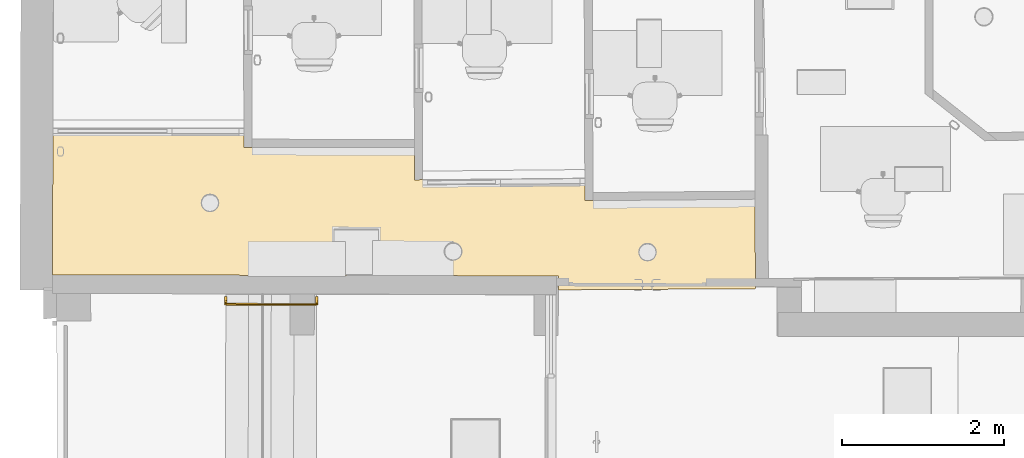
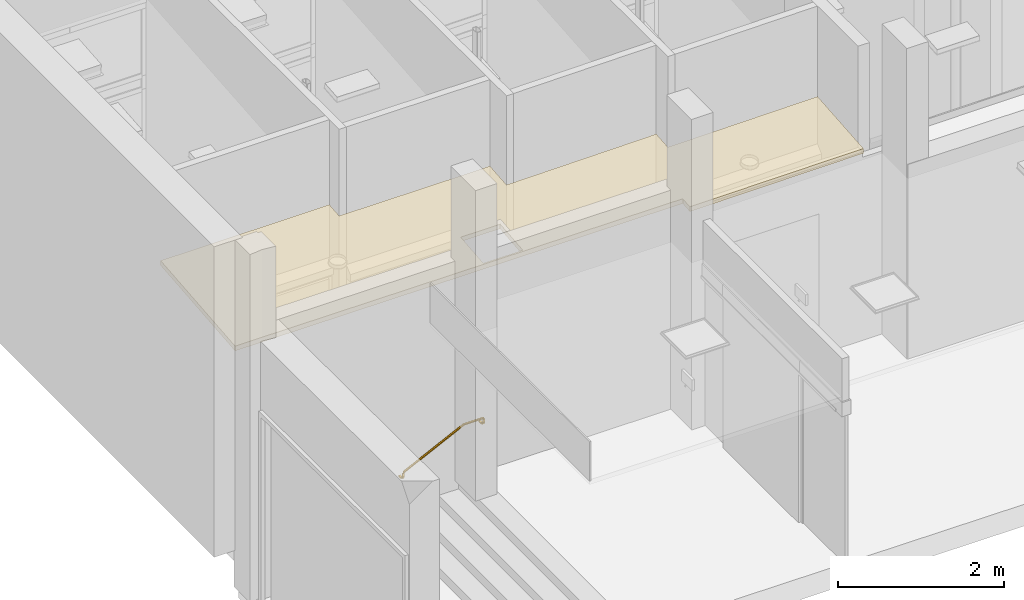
# One storey, part 57 of 128: 1 covering, 1 railing, 1 element without a shape of its own.
"""IFC2X3 building model written with IfcOpenShell, lengths in metres."""

from ifc_helpers import new_model, entity, si_unit, converted_unit, derived_unit, direction, frame, origin, place, context, subcontext, project, spatial, faceted_brep, material, layer, layer_set, layer_usage, type_object, element, aggregate, save


model = new_model("IFC2X3")

# Units and contexts
model_context = context("Model", 3, precision=1e-05, world=origin(), true_north=direction((6.123031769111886e-17, 1.0)))
body_context = subcontext(model_context, "Body", "Model", "MODEL_VIEW")
ifc_project = project(units=[si_unit("LENGTHUNIT", "METRE"), si_unit("AREAUNIT", "SQUARE_METRE"), converted_unit("PLANEANGLEUNIT", "DEGREE", entity("IfcPlaneAngleMeasure", 0.017453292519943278), si_unit("PLANEANGLEUNIT", "RADIAN"), dimensions=[0, 0, 0, 0, 0, 0, 0]), derived_unit("THERMALTRANSMITTANCEUNIT", [(si_unit("MASSUNIT", "GRAM", prefix="KILO"), 1), (si_unit("THERMODYNAMICTEMPERATUREUNIT", "KELVIN"), -1), (si_unit("TIMEUNIT", "SECOND"), -3)])], contexts=[model_context])

# Site, building, storey
site_placement = place(None, origin())
site = spatial("IfcSite", under=ifc_project, at=site_placement, Name="Default", CompositionType="ELEMENT")
building_placement = place(site_placement, origin())
building = spatial("IfcBuilding", under=site, at=building_placement, CompositionType="ELEMENT")
storey_placement = place(building_placement, origin())
storey = spatial("IfcBuildingStorey", under=building, at=storey_placement, Name="00_RDC CAF", CompositionType="ELEMENT", Elevation=2.4982504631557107e-13)

# Covering
ifc_material_1 = material(Name="ARC - FP - Blanc")
ifc_layer_1 = layer(ifc_material_1, 0.02)
ifc_material_2 = material(Name="ARC - FP - Trame 600 x 600")
ifc_layer_2 = layer(ifc_material_2, 0.05)
ifc_layer_set = layer_set([ifc_layer_1, ifc_layer_2], Name="Plafond composé:FP_Dalle-600X600_70mm")
ifc_layer_usage = layer_usage(ifc_layer_set, "AXIS3", "NEGATIVE", 0.07)
covering_type = type_object("IfcCoveringType", Name="Plafond composé:FP_Dalle-600X600_70mm", PredefinedType="CEILING")
covering_placement = place(storey_placement, frame((6.661251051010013, 130.067958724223, 2.773527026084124)))
element("IfcCovering", 1, at=covering_placement, inside=storey, type_object=covering_type, material=ifc_layer_usage, Name="Plafond composé:FP_Dalle-600X600_70mm", ObjectType="Plafond composé:FP_Dalle-600X600_70mm", PredefinedType="CEILING", context=body_context, shape_type="Brep", body=[
    faceted_brep([(6.236379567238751, 0.0, 0.07028292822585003), (8.665495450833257, 0.014004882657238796, 0.0715433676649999), (6.236379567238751, 0.17139027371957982, 0.08570805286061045), (6.565205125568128, 1.0989574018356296, 0.16918909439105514), (8.662607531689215, 1.1177075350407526, 0.1708766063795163), (4.462567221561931, 1.3572491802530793, 0.19243535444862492), (6.562935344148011, 1.377783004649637, 0.19428339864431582), (4.019981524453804, 0.197542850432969, 0.08806178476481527), (4.0220736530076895, 0.7453248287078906, 0.13736216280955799), (3.47207763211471, 0.7474085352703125, 0.1375496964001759), (4.4614822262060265, 1.7542659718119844, 0.22816686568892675), (2.3599775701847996, 1.758211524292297, 0.22852196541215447), (3.469985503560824, 0.19962655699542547, 0.08824931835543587), (0.0, 0.1857097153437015, 0.08699680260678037), (0.005243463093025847, 1.9946884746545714, 0.24980489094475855), (2.3593313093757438, 1.9946884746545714, 0.2498048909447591), (4.462567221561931, 1.3572491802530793, 0.12215242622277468), (6.562935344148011, 1.377783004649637, 0.1240004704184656), (4.995982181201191, 0.5694035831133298, 0.051246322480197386), (4.969452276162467, 0.5803483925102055, 0.05223135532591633), (4.94098218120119, 0.5840814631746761, 0.0525673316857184), (4.912512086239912, 0.5803483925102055, 0.05223135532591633), (4.88598218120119, 0.5694035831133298, 0.051246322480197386), (4.86320043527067, 0.5519929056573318, 0.0496793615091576), (4.022073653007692, 0.7515994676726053, 0.06764395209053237), (3.4720776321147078, 0.7536831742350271, 0.06783148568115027), (4.4614822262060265, 1.7542659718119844, 0.1578839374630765), (5.018763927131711, 0.5519929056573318, 0.0496793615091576), (6.565205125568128, 1.0989574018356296, 0.09890616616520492), (5.036244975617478, 0.5293028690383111, 0.04763725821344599), (6.236379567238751, 0.17139027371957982, 0.015425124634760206), (7.225982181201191, 0.4655242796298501, 0.04189718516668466), (7.229730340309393, 0.4938797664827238, 0.04444917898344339), (7.240719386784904, 0.5203028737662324, 0.04682725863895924), (7.2582004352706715, 0.542992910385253, 0.04886936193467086), (7.280982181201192, 0.560403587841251, 0.050436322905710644), (7.307512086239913, 0.5713483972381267, 0.05142135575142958), (7.335982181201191, 0.5750814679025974, 0.0517573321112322), (7.364452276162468, 0.5713483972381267, 0.05142135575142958), (8.662607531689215, 1.1177075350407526, 0.10059367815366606), (7.390982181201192, 0.560403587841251, 0.050436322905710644), (7.413763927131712, 0.542992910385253, 0.04886936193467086), (7.43124497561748, 0.5203028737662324, 0.04682725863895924), (7.44223402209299, 0.4938797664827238, 0.04444917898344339), (7.445982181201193, 0.4655242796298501, 0.04189718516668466), (8.665495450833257, 0.014004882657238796, 0.0012604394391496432), (7.44223402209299, 0.4371687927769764, 0.039345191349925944), (7.43124497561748, 0.4107456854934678, 0.03696711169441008), (7.413763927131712, 0.38805564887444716, 0.034925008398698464), (7.390982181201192, 0.37064497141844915, 0.03335804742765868), (7.364452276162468, 0.35970016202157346, 0.03237301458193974), (7.335982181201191, 0.3559670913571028, 0.032037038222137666), (6.236379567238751, 0.0, 0.0), (7.240719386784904, 0.4107456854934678, 0.03696711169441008), (7.307512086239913, 0.3597001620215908, 0.03237301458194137), (7.280982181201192, 0.37064497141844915, 0.03335804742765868), (7.2582004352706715, 0.38805564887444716, 0.034925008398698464), (7.229730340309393, 0.4371687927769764, 0.039345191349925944), (5.047234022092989, 0.5028797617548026, 0.04525917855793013), (5.050982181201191, 0.4745242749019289, 0.04270718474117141), (5.047234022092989, 0.4461687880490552, 0.040155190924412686), (5.036244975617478, 0.4197456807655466, 0.037777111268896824), (5.018763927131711, 0.39705564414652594, 0.035735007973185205), (4.995982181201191, 0.37964496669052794, 0.03416804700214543), (4.969452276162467, 0.36870015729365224, 0.03318301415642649), (4.94098218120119, 0.3649670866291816, 0.03284703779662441), (4.019981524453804, 0.20381748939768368, 0.0183435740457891), (3.469985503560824, 0.20590119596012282, 0.018531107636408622), (0.0, 0.1857097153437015, 0.016713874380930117), (1.9419821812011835, 0.9629952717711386, 0.08666957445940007), (1.9135120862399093, 0.9667283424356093, 0.08700555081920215), (1.8869821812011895, 0.977673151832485, 0.08799058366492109), (1.86420043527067, 0.995083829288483, 0.08955754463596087), (1.846719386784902, 1.0177738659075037, 0.0915996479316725), (1.8357303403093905, 1.044196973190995, 0.09397772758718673), (1.8319821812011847, 1.0725524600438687, 0.09652972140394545), (0.005243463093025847, 1.9946884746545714, 0.1795219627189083), (1.835730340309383, 1.1009079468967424, 0.09908171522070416), (1.8467193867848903, 1.127331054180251, 0.10145979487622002), (1.864200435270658, 1.1500210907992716, 0.10350189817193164), (1.8869821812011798, 1.1674317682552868, 0.10506885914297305), (2.3593313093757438, 1.9946884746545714, 0.17952196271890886), (2.3599775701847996, 1.758211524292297, 0.15823903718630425), (2.0519821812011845, 1.0725524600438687, 0.09652972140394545), (2.048234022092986, 1.1009079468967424, 0.09908171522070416), (2.0372449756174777, 1.127331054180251, 0.10145979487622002), (2.019763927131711, 1.1500210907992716, 0.10350189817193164), (1.9969821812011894, 1.1674317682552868, 0.10506885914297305), (1.913512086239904, 1.1783765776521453, 0.10605389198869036), (1.9419821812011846, 1.1821096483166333, 0.1063898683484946), (1.970452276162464, 1.1783765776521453, 0.10605389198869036), (1.9704522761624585, 0.9667283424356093, 0.08700555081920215), (1.9969821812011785, 0.977673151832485, 0.08799058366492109), (2.019763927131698, 0.995083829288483, 0.08955754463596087), (2.037244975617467, 1.0177738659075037, 0.0915996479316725), (2.0482340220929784, 1.044196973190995, 0.09397772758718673), (4.83098218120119, 0.4745242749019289, 0.04270718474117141), (4.834730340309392, 0.4461687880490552, 0.040155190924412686), (4.845719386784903, 0.4197456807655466, 0.037777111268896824), (4.912512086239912, 0.36870015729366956, 0.03318301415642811), (4.88598218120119, 0.37964496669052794, 0.03416804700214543), (4.86320043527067, 0.39705564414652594, 0.035735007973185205), (4.845719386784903, 0.5293028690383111, 0.04763725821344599), (4.834730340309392, 0.5028797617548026, 0.04525917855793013), (1.996982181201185, 0.9731912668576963, 0.13778930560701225), (1.9704522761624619, 0.9622464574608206, 0.13680427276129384), (1.9419821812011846, 0.9585133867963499, 0.13646829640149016), (1.9135120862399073, 0.9622464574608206, 0.13680427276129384), (1.886982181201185, 0.9731912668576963, 0.13778930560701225), (1.8642004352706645, 0.9906019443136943, 0.13935626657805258), (1.8467193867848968, 1.013291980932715, 0.1413983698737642), (1.8357303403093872, 1.0397150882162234, 0.1437764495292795), (1.8319821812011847, 1.068070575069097, 0.14632844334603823), (1.8357303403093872, 1.096426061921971, 0.14888043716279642), (1.8467193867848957, 1.1228491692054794, 0.15125851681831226), (1.8642004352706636, 1.1455392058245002, 0.15330062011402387), (1.886982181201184, 1.162949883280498, 0.15486758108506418), (1.9135120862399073, 1.1738946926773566, 0.15585261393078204), (1.9419821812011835, 1.1776277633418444, 0.1561885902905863), (1.9704522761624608, 1.173894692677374, 0.1558526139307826), (1.9969821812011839, 1.162949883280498, 0.15486758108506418), (2.0197639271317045, 1.1455392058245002, 0.15330062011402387), (2.0372449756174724, 1.1228491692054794, 0.15125851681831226), (2.048234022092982, 1.096426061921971, 0.14888043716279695), (2.0519821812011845, 1.068070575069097, 0.14632844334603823), (2.048234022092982, 1.0397150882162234, 0.14377644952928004), (2.0372449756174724, 1.013291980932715, 0.1413983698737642), (2.0197639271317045, 0.9906019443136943, 0.13935626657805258), (4.995982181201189, 0.37516308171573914, 0.08396676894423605), (4.969452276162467, 0.3642182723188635, 0.08298173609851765), (4.94098218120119, 0.36048520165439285, 0.08264575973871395), (4.912512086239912, 0.3642182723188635, 0.08298173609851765), (4.88598218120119, 0.37516308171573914, 0.08396676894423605), (4.863200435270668, 0.3925737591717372, 0.08553372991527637), (4.845719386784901, 0.4152637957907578, 0.08757583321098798), (4.834730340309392, 0.4416869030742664, 0.08995391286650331), (4.83098218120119, 0.4700423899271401, 0.09250590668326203), (4.834730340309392, 0.49839787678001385, 0.0950579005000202), (4.845719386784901, 0.5248209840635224, 0.09743598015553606), (4.863200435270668, 0.547511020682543, 0.09947808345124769), (4.88598218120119, 0.5649216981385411, 0.101045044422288), (4.912512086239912, 0.5758665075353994, 0.10203007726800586), (4.940982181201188, 0.5795995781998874, 0.10236605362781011), (4.969452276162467, 0.5758665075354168, 0.1020300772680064), (4.995982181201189, 0.5649216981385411, 0.101045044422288), (5.018763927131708, 0.547511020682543, 0.09947808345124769), (5.036244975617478, 0.5248209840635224, 0.09743598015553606), (5.0472340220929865, 0.49839787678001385, 0.09505790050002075), (5.0509821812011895, 0.4700423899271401, 0.09250590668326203), (5.0472340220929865, 0.4416869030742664, 0.08995391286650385), (5.036244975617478, 0.4152637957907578, 0.08757583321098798), (5.018763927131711, 0.3925737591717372, 0.08553372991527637), (7.39098218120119, 0.36616308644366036, 0.08315676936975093), (7.364452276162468, 0.3552182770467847, 0.08217173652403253), (7.335982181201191, 0.35148520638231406, 0.08183576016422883), (7.307512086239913, 0.3552182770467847, 0.08217173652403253), (7.280982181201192, 0.36616308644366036, 0.08315676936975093), (7.25820043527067, 0.3835737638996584, 0.08472373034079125), (7.240719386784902, 0.406263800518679, 0.08676583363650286), (7.229730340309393, 0.4326869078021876, 0.08914391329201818), (7.225982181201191, 0.4610423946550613, 0.09169590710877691), (7.229730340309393, 0.48939788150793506, 0.09424790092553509), (7.240719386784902, 0.5158209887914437, 0.09662598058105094), (7.25820043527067, 0.5385110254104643, 0.09866808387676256), (7.280982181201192, 0.5559217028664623, 0.10023504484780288), (7.307512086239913, 0.5668665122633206, 0.10122007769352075), (7.33598218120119, 0.5705995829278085, 0.10155605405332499), (7.364452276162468, 0.566866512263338, 0.10122007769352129), (7.39098218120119, 0.5559217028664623, 0.10023504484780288), (7.4137639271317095, 0.5385110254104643, 0.09866808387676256), (7.43124497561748, 0.5158209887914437, 0.09662598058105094), (7.442234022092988, 0.48939788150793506, 0.09424790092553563), (7.445982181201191, 0.4610423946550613, 0.09169590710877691), (7.442234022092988, 0.4326869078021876, 0.08914391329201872), (7.43124497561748, 0.406263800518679, 0.08676583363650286), (7.413763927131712, 0.3835737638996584, 0.08472373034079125)], [[[0, 1, 2]], [[2, 1, 3]], [[4, 3, 1]], [[3, 5, 2]], [[6, 5, 3]], [[2, 5, 7]], [[8, 7, 5]], [[8, 5, 9]], [[9, 5, 10]], [[11, 9, 10]], [[11, 12, 9]], [[13, 12, 11]], [[14, 13, 11]], [[15, 14, 11]], [[2, 12, 13]], [[7, 12, 2]], [[16, 17, 18]], [[19, 16, 18]], [[19, 20, 16]], [[20, 21, 16]], [[21, 22, 16]], [[22, 23, 16]], [[24, 16, 23]], [[25, 16, 24]], [[26, 16, 25]], [[17, 27, 18]], [[17, 28, 27]], [[27, 28, 29]], [[29, 28, 30]], [[31, 30, 28]], [[31, 28, 32]], [[32, 28, 33]], [[28, 34, 33]], [[34, 28, 35]], [[28, 36, 35]], [[36, 28, 37]], [[28, 38, 37]], [[28, 39, 38]], [[40, 38, 39]], [[39, 41, 40]], [[41, 39, 42]], [[39, 43, 42]], [[43, 39, 44]], [[44, 39, 45]], [[46, 44, 45]], [[47, 46, 45]], [[48, 47, 45]], [[45, 49, 48]], [[49, 45, 50]], [[50, 45, 51]], [[52, 51, 45]], [[30, 53, 52]], [[52, 54, 51]], [[55, 54, 52]], [[56, 55, 52]], [[52, 53, 56]], [[31, 57, 30]], [[57, 53, 30]], [[29, 30, 58]], [[59, 58, 30]], [[60, 59, 30]], [[60, 30, 61]], [[61, 30, 62]], [[30, 63, 62]], [[63, 30, 64]], [[30, 65, 64]], [[66, 65, 30]], [[30, 67, 66]], [[30, 68, 67]], [[69, 67, 68]], [[70, 69, 68]], [[71, 70, 68]], [[68, 72, 71]], [[68, 73, 72]], [[68, 74, 73]], [[68, 75, 74]], [[76, 75, 68]], [[76, 77, 75]], [[78, 77, 76]], [[79, 78, 76]], [[76, 80, 79]], [[81, 80, 76]], [[80, 81, 82]], [[25, 83, 82]], [[84, 82, 83]], [[85, 82, 84]], [[26, 25, 82]], [[85, 86, 82]], [[86, 87, 82]], [[82, 88, 80]], [[88, 82, 89]], [[82, 90, 89]], [[90, 82, 87]], [[67, 69, 91]], [[67, 91, 92]], [[92, 93, 67]], [[93, 94, 25]], [[93, 25, 67]], [[95, 25, 94]], [[83, 25, 95]], [[96, 66, 24]], [[96, 97, 66]], [[97, 98, 66]], [[99, 65, 66]], [[100, 99, 66]], [[101, 100, 66]], [[101, 66, 98]], [[23, 102, 24]], [[103, 24, 102]], [[96, 24, 103]], [[14, 76, 68, 13]], [[2, 13, 68, 30]], [[39, 4, 1, 45]], [[3, 4, 39, 28]], [[6, 3, 28, 17]], [[5, 6, 17, 16]], [[10, 5, 16, 26]], [[11, 10, 26, 82]], [[15, 11, 82, 81]], [[14, 15, 81, 76]], [[104, 105, 106, 107, 108, 109, 110, 111, 112, 113, 114, 115, 116, 117, 118, 119, 120, 121, 122, 123, 124, 125, 126, 127]], [[128, 129, 130, 131, 132, 133, 134, 135, 136, 137, 138, 139, 140, 141, 142, 143, 144, 145, 146, 147, 148, 149, 150, 151]], [[152, 153, 154, 155, 156, 157, 158, 159, 160, 161, 162, 163, 164, 165, 166, 167, 168, 169, 170, 171, 172, 173, 174, 175]], [[112, 75, 77, 113]], [[113, 77, 78, 114]], [[116, 115, 79, 80]], [[79, 115, 114, 78]], [[117, 116, 80, 88]], [[117, 88, 89, 118]], [[118, 89, 90, 119]], [[119, 90, 87, 120]], [[86, 121, 120, 87]], [[85, 122, 121, 86]], [[83, 124, 123, 84]], [[85, 84, 123, 122]], [[124, 83, 95, 125]], [[125, 95, 94, 126]], [[104, 127, 93, 92]], [[93, 127, 126, 94]], [[105, 104, 92, 91]], [[105, 91, 69, 106]], [[70, 107, 106, 69]], [[111, 110, 73, 74]], [[109, 72, 73, 110]], [[111, 74, 75, 112]], [[71, 108, 107, 70]], [[71, 72, 109, 108]], [[136, 96, 103, 137]], [[137, 103, 102, 138]], [[140, 139, 23, 22]], [[23, 139, 138, 102]], [[141, 140, 22, 21]], [[141, 21, 20, 142]], [[142, 20, 19, 143]], [[143, 19, 18, 144]], [[27, 145, 144, 18]], [[29, 146, 145, 27]], [[59, 148, 147, 58]], [[29, 58, 147, 146]], [[148, 59, 60, 149]], [[149, 60, 61, 150]], [[128, 151, 62, 63]], [[62, 151, 150, 61]], [[129, 128, 63, 64]], [[129, 64, 65, 130]], [[99, 131, 130, 65]], [[135, 134, 98, 97]], [[133, 101, 98, 134]], [[135, 97, 96, 136]], [[100, 132, 131, 99]], [[100, 101, 133, 132]], [[160, 31, 32, 161]], [[161, 32, 33, 162]], [[164, 163, 34, 35]], [[34, 163, 162, 33]], [[165, 164, 35, 36]], [[165, 36, 37, 166]], [[166, 37, 38, 167]], [[167, 38, 40, 168]], [[41, 169, 168, 40]], [[42, 170, 169, 41]], [[44, 172, 171, 43]], [[42, 43, 171, 170]], [[172, 44, 46, 173]], [[173, 46, 47, 174]], [[152, 175, 48, 49]], [[48, 175, 174, 47]], [[153, 152, 49, 50]], [[153, 50, 51, 154]], [[54, 155, 154, 51]], [[159, 158, 53, 57]], [[157, 56, 53, 158]], [[159, 57, 31, 160]], [[55, 156, 155, 54]], [[55, 56, 157, 156]], [[9, 12, 67, 25]], [[8, 9, 25, 24]], [[8, 24, 66, 7]], [[12, 7, 66, 67]], [[0, 2, 30, 52]], [[1, 0, 52, 45]]]),
])

# Stair, railing
type_product = type_object("IfcTypeProduct", Name="Escalier coulé sur place:E_Coule_en_place_Beton_Paillasse_550mm")
stair_placement = place(storey_placement, origin())
stair = element("IfcStair", 2, at=stair_placement, inside=storey, type_object=type_product, Name="Escalier coulé sur place:Escalier", ObjectType="Escalier coulé sur place:E_Coule_en_place_Beton_Paillasse_550mm", ShapeType="STRAIGHT_RUN_STAIR")
ifc_material_3 = material(Name="<Unnamed>")
railing_type = type_object("IfcRailingType", Name="Garde-corps:GC_Main_courante_au_mur", PredefinedType="NOTDEFINED")
railing_placement = place(stair_placement, frame((8.783556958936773, 129.87174799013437, 0.35790472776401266)))
railing = element("IfcRailing", 3, at=railing_placement, type_object=railing_type, material=ifc_material_3, Name="Garde-corps:GC_Main_courante_au_mur", ObjectType="Garde-corps:GC_Main_courante_au_mur", PredefinedType="NOTDEFINED", context=body_context, shape_type="Brep", body=[
    faceted_brep([(0.015052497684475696, 0.03238923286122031, 0.12123974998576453), (0.015052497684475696, 0.03238923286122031, 0.11706198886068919), (0.015052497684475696, 0.03238923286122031, 0.11288422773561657), (0.01505249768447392, 0.03238923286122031, 0.10870646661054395), (0.015052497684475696, 0.03238923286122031, 0.10452870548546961), (0.015044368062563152, 0.029141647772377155, 0.10243982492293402), (0.015036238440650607, 0.025894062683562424, 0.10035094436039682), (0.015026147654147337, 0.0218630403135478, 0.0977581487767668), (0.015019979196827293, 0.01939889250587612, 0.0961731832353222), (0.01501381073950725, 0.016934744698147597, 0.09775814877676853), (0.015007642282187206, 0.014470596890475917, 0.09934311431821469), (0.014997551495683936, 0.010439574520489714, 0.10193590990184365), (0.014987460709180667, 0.00640855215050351, 0.10452870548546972), (0.01498746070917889, 0.00640855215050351, 0.10870646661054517), (0.014987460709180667, 0.00640855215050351, 0.11288422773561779), (0.014987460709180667, 0.006408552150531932, 0.11706198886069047), (0.014987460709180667, 0.00640855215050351, 0.1212397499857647), (0.014995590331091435, 0.009656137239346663, 0.12332863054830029), (0.015003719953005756, 0.012903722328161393, 0.12541751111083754), (0.015011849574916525, 0.016151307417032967, 0.1275063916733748), (0.015019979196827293, 0.01939889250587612, 0.1295952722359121), (0.015028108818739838, 0.02264647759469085, 0.12750639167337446), (0.015036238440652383, 0.025894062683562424, 0.12541751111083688), (0.015044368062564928, 0.029141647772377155, 0.12332863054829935), (0.8619859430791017, 0.017278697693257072, 0.5120952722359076), (0.8615422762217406, 0.014032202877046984, 0.5139702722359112), (0.8614145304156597, 0.01309743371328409, 0.514510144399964), (0.8610986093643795, 0.010785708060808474, 0.5158452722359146), (0.8606549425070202, 0.0075392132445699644, 0.5177202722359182), (0.8602112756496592, 0.0042927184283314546, 0.5195952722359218), (0.8584691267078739, 0.004297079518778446, 0.5270952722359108), (0.8593402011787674, 0.0042948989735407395, 0.5233452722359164), (1.1349839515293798, 0.0036048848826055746, 0.523345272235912), (1.1349839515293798, 0.0036048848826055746, 0.519595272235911), (1.1349839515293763, 0.0036048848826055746, 0.5270952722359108), (1.1349839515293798, 0.0036048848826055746, 0.5308452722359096), (0.8575980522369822, 0.004299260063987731, 0.5308452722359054), (1.1349839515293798, 0.0036048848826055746, 0.5345952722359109), (0.8567269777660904, 0.004301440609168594, 0.5345952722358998), (0.8562995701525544, 0.007550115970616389, 0.5364702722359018), (0.8558721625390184, 0.010798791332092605, 0.5383452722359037), (0.8555678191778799, 0.013112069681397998, 0.5396804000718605), (0.8553416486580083, 0.01483116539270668, 0.5406725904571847), (0.8550173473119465, 0.017296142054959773, 0.5420952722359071), (0.8553539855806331, 0.019759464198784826, 0.5406725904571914), (0.8555887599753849, 0.021477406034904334, 0.5396804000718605), (0.855690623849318, 0.022222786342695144, 0.539249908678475), (0.856160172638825, 0.025658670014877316, 0.53726552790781), (0.8562413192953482, 0.026252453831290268, 0.536922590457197), (0.8564760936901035, 0.027970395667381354, 0.5359304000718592), (0.8567920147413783, 0.030282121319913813, 0.5345952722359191), (0.8602763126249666, 0.030273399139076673, 0.5195952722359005), (0.8607037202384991, 0.02702472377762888, 0.5177202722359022), (0.8611311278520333, 0.023776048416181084, 0.5158452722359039), (0.8615585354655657, 0.02052737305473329, 0.5139702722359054), (0.8594052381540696, 0.030275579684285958, 0.5233452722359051), (0.8585341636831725, 0.030277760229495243, 0.5270952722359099), (0.8576630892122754, 0.030279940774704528, 0.5308452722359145), (1.1350489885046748, 0.02958556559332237, 0.5345952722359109), (1.135048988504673, 0.02958556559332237, 0.5308452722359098), (1.1350489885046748, 0.02958556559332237, 0.527095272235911), (1.1350489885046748, 0.02958556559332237, 0.5233452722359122), (1.1350489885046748, 0.02958556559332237, 0.519595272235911), (1.1349897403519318, 0.005917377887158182, 0.5182601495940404), (1.134995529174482, 0.008229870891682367, 0.5169250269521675), (1.1350059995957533, 0.012412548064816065, 0.5145101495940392), (1.1350164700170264, 0.016595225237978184, 0.5120952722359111), (1.1350269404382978, 0.020777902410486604, 0.5145101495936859), (1.1350327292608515, 0.02309039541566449, 0.5158452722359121), (1.1350408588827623, 0.02633798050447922, 0.5177202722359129), (1.135040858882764, 0.02633798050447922, 0.5364702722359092), (1.1350327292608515, 0.02309039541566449, 0.5383452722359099), (1.1350245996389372, 0.019842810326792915, 0.5402202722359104), (1.1350164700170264, 0.016595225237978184, 0.5420952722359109), (1.1350083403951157, 0.013347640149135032, 0.5402202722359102), (1.1350002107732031, 0.010100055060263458, 0.5383452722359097), (1.1349920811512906, 0.006852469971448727, 0.5364702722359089)], [[[0, 1, 2, 3, 4, 5, 6, 7, 8, 9, 10, 11, 12, 13, 14, 15, 16, 17, 18, 19, 20, 21, 22, 23]], [[12, 11, 10, 9, 8, 24, 25, 26, 27, 28, 29]], [[14, 30, 15]], [[14, 31, 30]], [[31, 14, 13]], [[13, 29, 31]], [[13, 12, 29]], [[29, 32, 31]], [[33, 32, 29]], [[31, 32, 34]], [[34, 35, 30]], [[34, 30, 31]], [[36, 30, 35]], [[37, 36, 35]], [[36, 37, 38]], [[38, 16, 36]], [[36, 16, 15]], [[30, 36, 15]], [[19, 18, 17, 16, 38, 39, 40, 41, 42, 43, 20]], [[23, 22, 21, 20, 43, 44, 45, 46, 47, 48, 49, 50, 0]], [[6, 5, 4, 51, 52, 53, 54, 24, 8, 7]], [[3, 51, 4]], [[51, 3, 55]], [[3, 2, 55]], [[56, 55, 2]], [[1, 56, 2]], [[56, 1, 57]], [[1, 0, 57]], [[0, 50, 57]], [[57, 50, 58]], [[57, 58, 59]], [[56, 59, 60]], [[59, 56, 57]], [[56, 60, 55]], [[60, 61, 55]], [[61, 51, 55]], [[62, 51, 61]], [[63, 64, 65, 66, 67, 68, 69, 62, 61, 60, 59, 58, 70, 71, 72, 73, 74, 75, 76, 37, 35, 34, 32, 33]], [[26, 25, 24, 66, 65, 64, 63, 33, 29, 28, 27]], [[74, 73, 43, 42, 41, 40, 39, 38, 37, 76, 75]], [[69, 68, 67, 66, 24, 54, 53, 52, 51, 62]], [[58, 50, 49, 48, 47, 46, 45, 44, 43, 73, 72, 71, 70]]]),
    faceted_brep([(0.030039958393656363, 0.02736131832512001, 0.09959527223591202), (4.00523895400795e-05, 0.027436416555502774, 0.09959527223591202), (0.0, 0.01143646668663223, 0.09959527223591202), (0.029999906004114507, 0.011361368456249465, 0.09959527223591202), (0.030039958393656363, 0.02736131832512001, 0.054595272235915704), (4.00523895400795e-05, 0.027436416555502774, 0.054595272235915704), (5.163003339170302e-05, 0.03206140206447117, 0.04658453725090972), (6.320767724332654e-05, 0.03668638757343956, 0.03857380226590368), (7.478532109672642e-05, 0.041311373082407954, 0.030563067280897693), (8.636296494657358e-05, 0.04593635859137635, 0.022552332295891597), (0.00010535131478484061, 0.053521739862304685, 0.020519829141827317), (0.00013267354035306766, 0.06443630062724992, 0.017595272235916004), (0.00025783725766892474, 0.11443614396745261, 0.017595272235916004), (0.00025783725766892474, 0.11443614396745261, 0.0015952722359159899), (0.00013267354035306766, 0.06443630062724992, 0.0015952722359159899), (0.00011059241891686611, 0.05561543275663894, 0.0052490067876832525), (8.85112974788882e-05, 0.04679456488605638, 0.008902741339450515), (6.368523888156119e-05, 0.036877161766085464, 0.013010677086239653), (3.885918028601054e-05, 0.02695975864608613, 0.01711861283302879), (2.9144385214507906e-05, 0.02307893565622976, 0.02648777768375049), (1.9429590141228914e-05, 0.01919811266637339, 0.03585694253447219), (9.714795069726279e-06, 0.01531728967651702, 0.04522610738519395), (0.0, 0.01143646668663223, 0.054595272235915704), (0.029999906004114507, 0.011361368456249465, 0.054595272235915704), (0.03000905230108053, 0.015015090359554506, 0.04577437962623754), (0.030019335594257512, 0.019123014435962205, 0.03585694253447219), (0.03002905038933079, 0.023003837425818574, 0.02648777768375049), (0.030038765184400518, 0.026884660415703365, 0.01711861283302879), (0.03006221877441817, 0.03625379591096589, 0.013237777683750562), (0.030085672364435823, 0.04562293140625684, 0.00935694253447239), (0.0301091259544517, 0.05499206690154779, 0.005476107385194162), (0.03013257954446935, 0.06436120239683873, 0.0015952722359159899), (0.030257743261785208, 0.11436104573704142, 0.0015952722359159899), (0.030257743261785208, 0.11436104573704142, 0.017595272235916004), (0.03013257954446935, 0.06436120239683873, 0.017595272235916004), (0.030112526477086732, 0.056350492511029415, 0.02222027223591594), (0.030092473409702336, 0.04833978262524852, 0.026845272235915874), (0.030072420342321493, 0.04032907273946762, 0.03147027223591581), (0.030052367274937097, 0.0323183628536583, 0.0360952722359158), (0.030046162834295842, 0.029839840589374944, 0.04534527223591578)], [[[0, 1, 2, 3]], [[1, 0, 4, 5]], [[5, 6, 7, 8, 9, 10, 11, 12, 13, 14, 15, 16, 17, 18, 19, 20, 21, 22, 2, 1]], [[3, 2, 22, 23]], [[3, 23, 24, 25, 26, 27, 28, 29, 30, 31, 32, 33, 34, 35, 36, 37, 38, 39, 4, 0]], [[7, 6, 39]], [[37, 8, 38]], [[8, 37, 9]], [[6, 5, 4]], [[35, 10, 36]], [[10, 35, 11]], [[39, 6, 4]], [[38, 8, 7]], [[37, 36, 9]], [[39, 38, 7]], [[9, 36, 10]], [[35, 34, 11]], [[24, 23, 22, 21, 20, 19, 18, 27, 26, 25]], [[27, 18, 17, 16, 15, 14, 31, 30, 29, 28]], [[13, 12, 33, 32]], [[11, 34, 33, 12]], [[31, 14, 13, 32]]]),
    faceted_brep([(1.1500364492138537, 0.024557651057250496, 0.5120952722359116), (1.1200365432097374, 0.02463274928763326, 0.5120952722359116), (1.1199964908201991, 0.008632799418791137, 0.5120952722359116), (1.1499963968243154, 0.008557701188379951, 0.5120952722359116), (1.1500364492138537, 0.024557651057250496, 0.46709527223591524), (1.1200365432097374, 0.02463274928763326, 0.467095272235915), (1.1200481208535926, 0.029257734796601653, 0.4590845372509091), (1.1200596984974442, 0.03388272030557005, 0.45107380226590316), (1.1200712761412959, 0.03850770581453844, 0.4430630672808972), (1.120082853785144, 0.04313269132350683, 0.4350523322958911), (1.1201018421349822, 0.05071807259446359, 0.43301982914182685), (1.1201291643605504, 0.06163263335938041, 0.4300952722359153), (1.120254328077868, 0.1116324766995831, 0.4300952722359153), (1.120254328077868, 0.1116324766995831, 0.4140952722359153), (1.1201291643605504, 0.06163263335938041, 0.4140952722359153), (1.120107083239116, 0.052811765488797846, 0.41774900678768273), (1.120085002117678, 0.043990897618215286, 0.4214027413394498), (1.1200601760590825, 0.03407349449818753, 0.4255106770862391), (1.1200353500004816, 0.024156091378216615, 0.4296186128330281), (1.1200256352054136, 0.020275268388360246, 0.43898777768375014), (1.1200159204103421, 0.016394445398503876, 0.44835694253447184), (1.1200062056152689, 0.012513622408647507, 0.45772610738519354), (1.1199964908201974, 0.008632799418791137, 0.467095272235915), (1.1499963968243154, 0.008557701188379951, 0.467095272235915), (1.1500055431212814, 0.012211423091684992, 0.458274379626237), (1.1500158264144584, 0.016319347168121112, 0.44835694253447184), (1.15002554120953, 0.02020017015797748, 0.43898777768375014), (1.1500352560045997, 0.02408099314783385, 0.4296186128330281), (1.1500587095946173, 0.0334501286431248, 0.42573777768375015), (1.150082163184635, 0.042819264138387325, 0.42185694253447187), (1.1501056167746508, 0.05218839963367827, 0.4179761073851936), (1.1501290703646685, 0.06155753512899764, 0.4140952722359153), (1.1502542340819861, 0.11155737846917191, 0.4140952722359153), (1.1502542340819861, 0.11155737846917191, 0.4300952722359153), (1.1501290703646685, 0.06155753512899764, 0.4300952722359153), (1.150109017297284, 0.05354682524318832, 0.43472027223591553), (1.1500889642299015, 0.045536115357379, 0.4393452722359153), (1.1500689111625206, 0.037525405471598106, 0.4439702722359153), (1.1500488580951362, 0.029514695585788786, 0.44859527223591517), (1.1500426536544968, 0.02703617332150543, 0.45784527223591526)], [[[0, 1, 2, 3]], [[1, 0, 4, 5]], [[5, 6, 7, 8, 9, 10, 11, 12, 13, 14, 15, 16, 17, 18, 19, 20, 21, 22, 2, 1]], [[3, 2, 22, 23]], [[3, 23, 24, 25, 26, 27, 28, 29, 30, 31, 32, 33, 34, 35, 36, 37, 38, 39, 4, 0]], [[7, 6, 39]], [[37, 8, 38]], [[8, 37, 9]], [[6, 5, 4]], [[35, 10, 36]], [[10, 35, 11]], [[39, 6, 4]], [[38, 8, 7]], [[37, 36, 9]], [[39, 38, 7]], [[9, 36, 10]], [[35, 34, 11]], [[24, 23, 22, 21, 20, 19, 18, 27, 26, 25]], [[27, 18, 17, 16, 15, 14, 31, 30, 29, 28]], [[13, 12, 33, 32]], [[11, 34, 33, 12]], [[31, 14, 13, 32]]]),
])
aggregate(stair, [railing])

save(model, "model.ifc")
